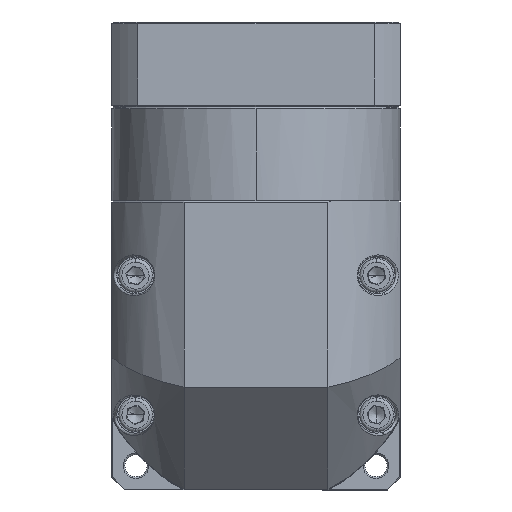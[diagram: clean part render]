
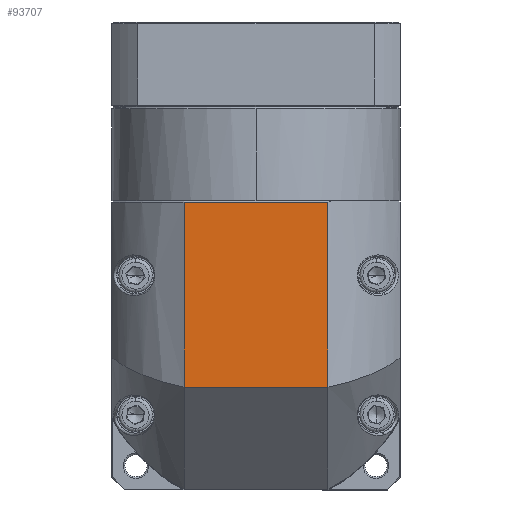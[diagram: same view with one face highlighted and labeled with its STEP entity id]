
A CAD part, top view. The second image highlights one B-rep face of the part: STEP entity #93707.
In plain terms, the highlighted planar face has unit normal (0, 0, 1).
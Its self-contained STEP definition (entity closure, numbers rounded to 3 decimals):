
#1479 = DIRECTION ( 'NONE',  ( 0., 1., 0. ) ) ;
#3305 = EDGE_CURVE ( 'NONE', #105506, #93659, #10025, .T. ) ;
#4120 = CARTESIAN_POINT ( 'NONE',  ( -70.485, 84.127, 70.161 ) ) ;
#8584 = ORIENTED_EDGE ( 'NONE', *, *, #64441, .F. ) ;
#8602 = ORIENTED_EDGE ( 'NONE', *, *, #3305, .T. ) ;
#10025 = LINE ( 'NONE', #23133, #40241 ) ;
#13379 = ORIENTED_EDGE ( 'NONE', *, *, #138923, .F. ) ;
#14478 = CARTESIAN_POINT ( 'NONE',  ( -28.059, 29.627, 70.161 ) ) ;
#18865 = FACE_OUTER_BOUND ( 'NONE', #23222, .T. ) ;
#23133 = CARTESIAN_POINT ( 'NONE',  ( -49.272, 84.127, 70.161 ) ) ;
#23222 = EDGE_LOOP ( 'NONE', ( #27078, #8584, #13379, #8602 ) ) ;
#26829 = AXIS2_PLACEMENT_3D ( 'NONE', #99408, #57634, #110067 ) ;
#27078 = ORIENTED_EDGE ( 'NONE', *, *, #82911, .F. ) ;
#37410 = VECTOR ( 'NONE', #1479, 1000. ) ;
#40241 = VECTOR ( 'NONE', #88386, 1000. ) ;
#42018 = VERTEX_POINT ( 'NONE', #14478 ) ;
#44161 = CARTESIAN_POINT ( 'NONE',  ( -70.485, -15.873, 70.161 ) ) ;
#48122 = LINE ( 'NONE', #119760, #105199 ) ;
#55576 = CARTESIAN_POINT ( 'NONE',  ( -49.272, 29.627, 70.161 ) ) ;
#57634 = DIRECTION ( 'NONE',  ( 0., 0., 1. ) ) ;
#64441 = EDGE_CURVE ( 'NONE', #42018, #67513, #108152, .T. ) ;
#67513 = VERTEX_POINT ( 'NONE', #96454 ) ;
#69620 = VECTOR ( 'NONE', #131018, 1000. ) ;
#82911 = EDGE_CURVE ( 'NONE', #67513, #93659, #129651, .T. ) ;
#88386 = DIRECTION ( 'NONE',  ( -1., 0., 0. ) ) ;
#89029 = CARTESIAN_POINT ( 'NONE',  ( -28.059, 84.127, 70.161 ) ) ;
#93659 = VERTEX_POINT ( 'NONE', #4120 ) ;
#93707 = ADVANCED_FACE ( 'NONE', ( #18865 ), #98467, .T. ) ;
#96454 = CARTESIAN_POINT ( 'NONE',  ( -70.485, 29.627, 70.161 ) ) ;
#97424 = DIRECTION ( 'NONE',  ( 0., -1., 0. ) ) ;
#98467 = PLANE ( 'NONE',  #26829 ) ;
#99408 = CARTESIAN_POINT ( 'NONE',  ( -49.272, 42.127, 70.161 ) ) ;
#105199 = VECTOR ( 'NONE', #97424, 1000. ) ;
#105506 = VERTEX_POINT ( 'NONE', #89029 ) ;
#108152 = LINE ( 'NONE', #55576, #69620 ) ;
#110067 = DIRECTION ( 'NONE',  ( 0., 1., 0. ) ) ;
#119760 = CARTESIAN_POINT ( 'NONE',  ( -28.059, -15.873, 70.161 ) ) ;
#129651 = LINE ( 'NONE', #44161, #37410 ) ;
#131018 = DIRECTION ( 'NONE',  ( -1., 0., 0. ) ) ;
#138923 = EDGE_CURVE ( 'NONE', #105506, #42018, #48122, .T. ) ;
